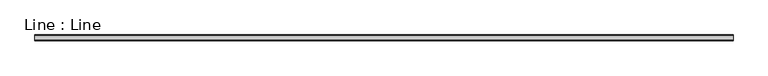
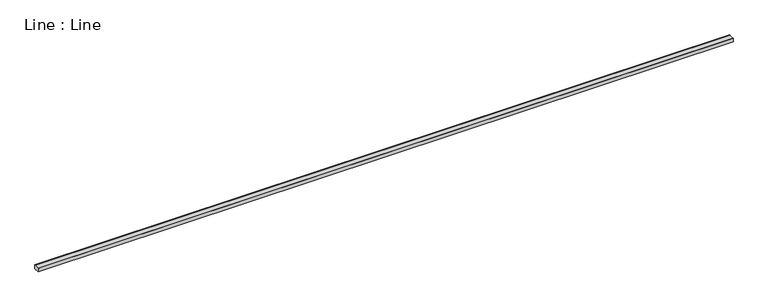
"""IFC4 building model written with IfcOpenShell, lengths in millimetres: light fixture geometry, Line : Line."""

from ifc_helpers import new_model, si_unit, frame, origin, place, context, project, spatial, polyline, outline, extrude, source, transform, mapped, element, save


def line_line_be03ad6e(model_context):
    return source(origin(), model_context, "Body", "SweptSolid", [
        extrude(outline(polyline([(-13.2699605, -0.6594598), (13.2699605, -0.6594598), (13.2699605, 0.4921885), (15.2699605, 0.4921885), (15.2699605, -18.9218892), (-15.2699605, -18.9218892), (-15.2699605, 0.4921885), (-13.2699605, 0.4921885), (-13.2699605, -0.6594598)])), frame((0.0, 0.0, 0.0), z_axis=(1.0, 0.0, 0.0), x_axis=(0.0, 1.0, 0.0)), (0.0, 0.0, 1.0), 3628.9935489),
    ])


if __name__ == "__main__":
    model = new_model("IFC4")
    model_context = context("Model", 3, world=origin())
    ifc_project = project(units=[si_unit("LENGTHUNIT", "METRE", prefix="MILLI")], contexts=[model_context])
    site = spatial("IfcSite", under=ifc_project)
    building = spatial("IfcBuilding", under=site)
    placement = place(None, origin())
    line_line_shape = line_line_be03ad6e(model_context)
    element("IfcLightFixture", 1, ObjectType="Line : Line", at=placement, inside=building, context=model_context, shape_type="MappedRepresentation", body=[
        mapped(line_line_shape, transform((0.0, 0.0, 0.0), x_axis=(1.0, 0.0, 0.0), y_axis=(0.0, 1.0, 0.0), z_axis=(0.0, 0.0, 1.0))),
    ])
    save(model, "model.ifc")
